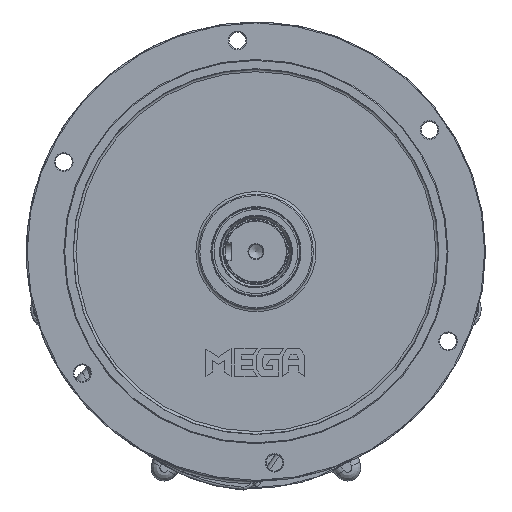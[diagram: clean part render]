
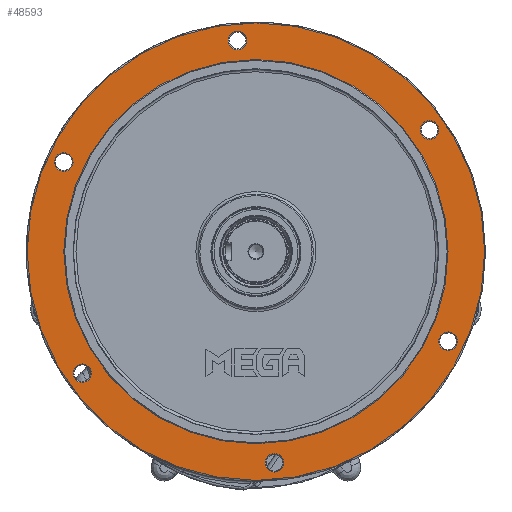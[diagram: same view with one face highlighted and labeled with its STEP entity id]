
A CAD part, front view. The second image highlights one B-rep face of the part: STEP entity #48593.
In plain terms, the highlighted planar face has unit normal (0, -1, 0).
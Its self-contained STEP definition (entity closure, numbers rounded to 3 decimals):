
#2308=FACE_BOUND('',#7938,.T.);
#2309=FACE_BOUND('',#7939,.T.);
#2310=FACE_BOUND('',#7940,.T.);
#2311=FACE_BOUND('',#7941,.T.);
#2312=FACE_BOUND('',#7942,.T.);
#2313=FACE_BOUND('',#7943,.T.);
#2314=FACE_BOUND('',#7944,.T.);
#3043=PLANE('',#52943);
#4935=FACE_OUTER_BOUND('',#7937,.T.);
#7937=EDGE_LOOP('',(#37609));
#7938=EDGE_LOOP('',(#37610));
#7939=EDGE_LOOP('',(#37611));
#7940=EDGE_LOOP('',(#37612));
#7941=EDGE_LOOP('',(#37613));
#7942=EDGE_LOOP('',(#37614));
#7943=EDGE_LOOP('',(#37615));
#7944=EDGE_LOOP('',(#37616));
#16612=CIRCLE('',#52712,259.);
#16615=CIRCLE('',#52717,217.5);
#16717=CIRCLE('',#52910,10.5);
#16724=CIRCLE('',#52924,10.5);
#16727=CIRCLE('',#52929,10.5);
#16730=CIRCLE('',#52934,10.5);
#16733=CIRCLE('',#52939,10.5);
#16736=CIRCLE('',#52944,10.5);
#20704=VERTEX_POINT('',#87905);
#20707=VERTEX_POINT('',#87914);
#20877=VERTEX_POINT('',#89956);
#20886=VERTEX_POINT('',#90080);
#20889=VERTEX_POINT('',#90090);
#20892=VERTEX_POINT('',#90100);
#20895=VERTEX_POINT('',#90110);
#20898=VERTEX_POINT('',#90120);
#26393=EDGE_CURVE('',#20704,#20704,#16612,.T.);
#26398=EDGE_CURVE('',#20707,#20707,#16615,.T.);
#26686=EDGE_CURVE('',#20877,#20877,#16717,.T.);
#26704=EDGE_CURVE('',#20886,#20886,#16724,.T.);
#26709=EDGE_CURVE('',#20889,#20889,#16727,.T.);
#26714=EDGE_CURVE('',#20892,#20892,#16730,.T.);
#26719=EDGE_CURVE('',#20895,#20895,#16733,.T.);
#26724=EDGE_CURVE('',#20898,#20898,#16736,.T.);
#37609=ORIENTED_EDGE('',*,*,#26393,.F.);
#37610=ORIENTED_EDGE('',*,*,#26719,.F.);
#37611=ORIENTED_EDGE('',*,*,#26709,.F.);
#37612=ORIENTED_EDGE('',*,*,#26686,.F.);
#37613=ORIENTED_EDGE('',*,*,#26398,.F.);
#37614=ORIENTED_EDGE('',*,*,#26704,.F.);
#37615=ORIENTED_EDGE('',*,*,#26714,.F.);
#37616=ORIENTED_EDGE('',*,*,#26724,.F.);
#48593=ADVANCED_FACE('',(#4935,#2308,#2309,#2310,#2311,#2312,#2313,#2314),
#3043,.T.);
#52712=AXIS2_PLACEMENT_3D('',#87906,#62862,#62863);
#52717=AXIS2_PLACEMENT_3D('',#87916,#62874,#62875);
#52910=AXIS2_PLACEMENT_3D('',#89957,#63374,#63375);
#52924=AXIS2_PLACEMENT_3D('',#90081,#63406,#63407);
#52929=AXIS2_PLACEMENT_3D('',#90091,#63418,#63419);
#52934=AXIS2_PLACEMENT_3D('',#90101,#63430,#63431);
#52939=AXIS2_PLACEMENT_3D('',#90111,#63442,#63443);
#52943=AXIS2_PLACEMENT_3D('',#90119,#63452,#63453);
#52944=AXIS2_PLACEMENT_3D('',#90121,#63454,#63455);
#62862=DIRECTION('center_axis',(0.,1.,0.));
#62863=DIRECTION('ref_axis',(-1.,0.,0.));
#62874=DIRECTION('center_axis',(0.,-1.,0.));
#62875=DIRECTION('ref_axis',(-1.,0.,0.));
#63374=DIRECTION('center_axis',(0.,-1.,0.));
#63375=DIRECTION('ref_axis',(-1.,0.,0.));
#63406=DIRECTION('center_axis',(0.,-1.,0.));
#63407=DIRECTION('ref_axis',(-0.5,0.,0.866));
#63418=DIRECTION('center_axis',(0.,-1.,0.));
#63419=DIRECTION('ref_axis',(0.5,0.,0.866));
#63430=DIRECTION('center_axis',(0.,-1.,0.));
#63431=DIRECTION('ref_axis',(1.,0.,0.));
#63442=DIRECTION('center_axis',(0.,-1.,0.));
#63443=DIRECTION('ref_axis',(0.5,0.,-0.866));
#63452=DIRECTION('center_axis',(0.,-1.,0.));
#63453=DIRECTION('ref_axis',(0.,0.,-1.));
#63454=DIRECTION('center_axis',(0.,-1.,0.));
#63455=DIRECTION('ref_axis',(-0.5,0.,-0.866));
#87905=CARTESIAN_POINT('',(259.228,-235.728,63.25));
#87906=CARTESIAN_POINT('Origin',(0.228,-235.728,63.25));
#87914=CARTESIAN_POINT('',(217.728,-235.728,63.25));
#87916=CARTESIAN_POINT('Origin',(0.228,-235.728,63.25));
#89956=CARTESIAN_POINT('',(-10.189,-235.728,302.337));
#89957=CARTESIAN_POINT('Origin',(-20.689,-235.728,302.337));
#90080=CARTESIAN_POINT('',(202.075,-235.728,191.815));
#90081=CARTESIAN_POINT('Origin',(196.825,-235.728,200.908));
#90090=CARTESIAN_POINT('',(212.492,-235.728,-47.272));
#90091=CARTESIAN_POINT('Origin',(217.742,-235.728,-38.178));
#90100=CARTESIAN_POINT('',(10.646,-235.728,-175.837));
#90101=CARTESIAN_POINT('Origin',(21.146,-235.728,-175.837));
#90110=CARTESIAN_POINT('',(-201.618,-235.728,-65.315));
#90111=CARTESIAN_POINT('Origin',(-196.368,-235.728,-74.408));
#90119=CARTESIAN_POINT('Origin',(0.228,-235.728,63.252));
#90120=CARTESIAN_POINT('',(-212.035,-235.728,173.772));
#90121=CARTESIAN_POINT('Origin',(-217.285,-235.728,164.678));
